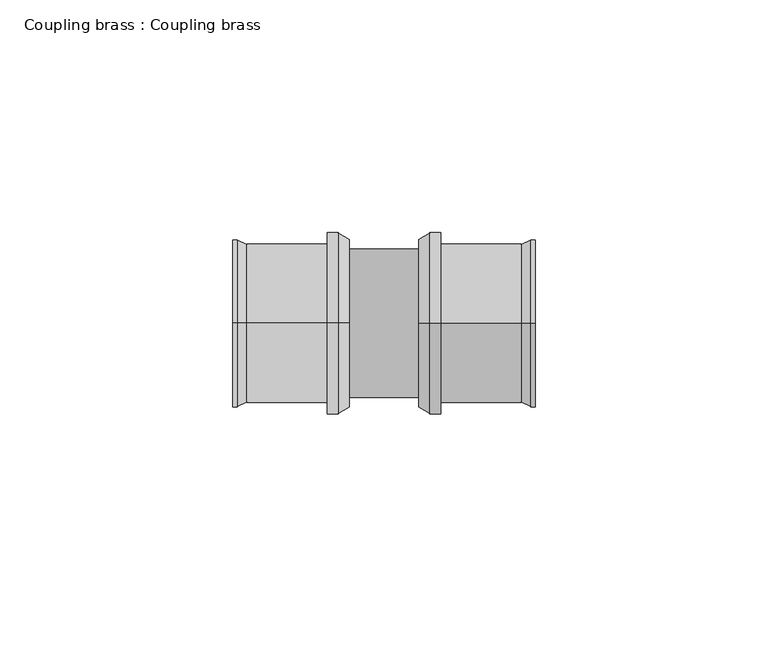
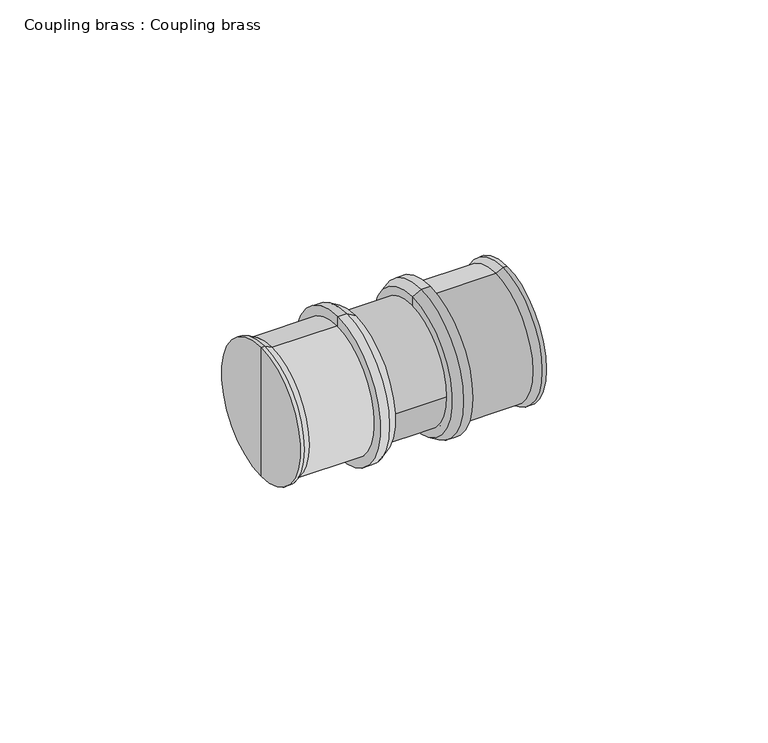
"""IFC4 building model written with IfcOpenShell, lengths in millimetres: pipe fitting geometry, Coupling brass : Coupling brass."""

from ifc_helpers import new_model, si_unit, point, frame, origin, origin_2d, place, context, project, spatial, polyline, circle_curve, trimmed, segment, composite_curve, outline, extrude, source, transform, mapped, element, save
from ifc_brep_helpers import plane_surface, cylinder_surface, revolved_surface, advanced_brep


def coupling_brass_coupling_brass_c12d3b78(model_context):
    return source(origin(), model_context, "Body", "SolidModel", [
        advanced_brep(
        [(7.5, 0.0, 0.0), (7.5, 0.0, 18.1432269), (7.5, 0.0, -18.1432269), (12.2, 0.0, -19.5), (12.2, 0.0, 19.5), (12.2, 0.0, 0.0), (9.85, 0.0, -19.5), (9.85, 0.0, 19.5)],
        [
            (0, 1),
            (1, 2, circle_curve(frame((7.5, 0.0, 0.0), z_axis=(-1.0, 0.0, 0.0), x_axis=(0.0, 0.0, 1.0)), 18.1432269)),
            (2, 0),
            (2, 1, circle_curve(frame((7.5, 0.0, 0.0), z_axis=(-1.0, 0.0, 0.0), x_axis=(0.0, 0.0, 1.0)), 18.1432269)),
            (3, 4, circle_curve(frame((12.2, 0.0, 0.0), z_axis=(1.0, 0.0, 0.0), x_axis=(0.0, 0.0, 1.0)), 19.5)),
            (4, 5),
            (5, 3),
            (4, 3, circle_curve(frame((12.2, 0.0, 0.0), z_axis=(1.0, 0.0, 0.0), x_axis=(0.0, 0.0, 1.0)), 19.5)),
            (6, 7, circle_curve(frame((9.85, 0.0, 0.0), z_axis=(1.0, 0.0, 0.0), x_axis=(0.0, 0.0, 1.0)), 19.5)),
            (7, 4),
            (3, 6),
            (7, 6, circle_curve(frame((9.85, 0.0, 0.0), z_axis=(1.0, 0.0, 0.0), x_axis=(0.0, 0.0, 1.0)), 19.5)),
            (1, 7),
            (6, 2),
        ],
        [
            plane_surface(frame((7.5, 0.0, 0.0), z_axis=(-1.0, 0.0, 0.0), x_axis=(0.0, 0.0, 1.0))),
            plane_surface(frame((12.2, 0.0, 0.0), z_axis=(1.0, 0.0, 0.0), x_axis=(0.0, 0.0, 1.0))),
            cylinder_surface(frame((8.5, 0.0, 0.0), z_axis=(-1.0, 0.0, 0.0), x_axis=(0.0, 0.0, 1.0)), 19.5),
            revolved_surface(polyline([(9.85, 0.0, 19.5), (7.5, 0.0, 18.1432269)]), (8.5, 0.0, 0.0), (-1.0, 0.0, 0.0)),
        ],
        [
            (0, [[1, 2, 3]]),
            (0, [[-3, 4, -1]]),
            (1, [[5, 6, 7]]),
            (1, [[8, -7, -6]]),
            (2, [[9, 10, -5, 11]]),
            (2, [[12, -11, -8, -10]]),
            (3, [[-2, 13, -9, 14]]),
            (3, [[-4, -14, -12, -13]]),
        ],
    ),
        advanced_brep(
        [(12.2, 0.0, -17.0), (12.2, 0.0, 17.0), (29.5, 0.0, 17.0), (29.5, 0.0, -17.0), (32.5, 0.0, -18.0), (32.5, 0.0, 18.0), (32.5, 0.0, 0.0), (12.2, 0.0, 0.0), (31.5, 0.0, -18.0), (31.5, 0.0, 18.0)],
        [
            (0, 1, circle_curve(frame((12.2, 0.0, 0.0), z_axis=(1.0, 0.0, 0.0), x_axis=(0.0, 0.0, 1.0)), 17.0)),
            (1, 2),
            (2, 3, circle_curve(frame((29.5, 0.0, 0.0), z_axis=(-1.0, 0.0, 0.0), x_axis=(0.0, 0.0, 1.0)), 17.0)),
            (3, 0),
            (1, 0, circle_curve(frame((12.2, 0.0, 0.0), z_axis=(1.0, 0.0, 0.0), x_axis=(0.0, 0.0, 1.0)), 17.0)),
            (3, 2, circle_curve(frame((29.5, 0.0, 0.0), z_axis=(-1.0, 0.0, 0.0), x_axis=(0.0, 0.0, 1.0)), 17.0)),
            (4, 5, circle_curve(frame((32.5, 0.0, 0.0), z_axis=(1.0, 0.0, 0.0), x_axis=(0.0, 0.0, 1.0)), 18.0)),
            (5, 6),
            (6, 4),
            (5, 4, circle_curve(frame((32.5, 0.0, 0.0), z_axis=(1.0, 0.0, 0.0), x_axis=(0.0, 0.0, 1.0)), 18.0)),
            (7, 1),
            (0, 7),
            (8, 9, circle_curve(frame((31.5, 0.0, 0.0), z_axis=(1.0, 0.0, 0.0), x_axis=(0.0, 0.0, 1.0)), 18.0)),
            (9, 5),
            (4, 8),
            (9, 8, circle_curve(frame((31.5, 0.0, 0.0), z_axis=(1.0, 0.0, 0.0), x_axis=(0.0, 0.0, 1.0)), 18.0)),
            (2, 9),
            (8, 3),
        ],
        [
            cylinder_surface(frame((-1903.3038476, 0.0, 0.0), z_axis=(-1.0, 0.0, 0.0), x_axis=(0.0, 0.0, 1.0)), 17.0),
            plane_surface(frame((32.5, 0.0, 0.0), z_axis=(1.0, 0.0, 0.0), x_axis=(0.0, 0.0, 1.0))),
            plane_surface(frame((12.2, 0.0, 0.0), z_axis=(-1.0, 0.0, 0.0), x_axis=(0.0, 0.0, 1.0))),
            cylinder_surface(frame((-1903.3038476, 0.0, 0.0), z_axis=(-1.0, 0.0, 0.0), x_axis=(0.0, 0.0, 1.0)), 18.0),
            revolved_surface(polyline([(31.5, 0.0, 18.0), (29.5, 0.0, 17.0)]), (-1903.3038476, 0.0, 0.0), (-1.0, 0.0, 0.0)),
        ],
        [
            (0, [[1, 2, 3, 4]]),
            (0, [[5, -4, 6, -2]]),
            (1, [[7, 8, 9]]),
            (1, [[10, -9, -8]]),
            (2, [[11, -1, 12]]),
            (2, [[-12, -5, -11]]),
            (3, [[13, 14, -7, 15]]),
            (3, [[16, -15, -10, -14]]),
            (4, [[-3, 17, -13, 18]]),
            (4, [[-6, -18, -16, -17]]),
        ],
    ),
        advanced_brep(
        [(-7.5, 0.0, 0.0), (-7.5, 0.0, 18.1432269), (-7.5, 0.0, -18.1432269), (-12.2, 0.0, -19.5), (-12.2, 0.0, 19.5), (-12.2, 0.0, 0.0), (-9.85, 0.0, -19.5), (-9.85, 0.0, 19.5)],
        [
            (0, 1),
            (1, 2, circle_curve(frame((-7.5, 0.0, 0.0), z_axis=(1.0, 0.0, 0.0), x_axis=(0.0, 0.0, 1.0)), 18.1432269)),
            (2, 0),
            (2, 1, circle_curve(frame((-7.5, 0.0, 0.0), z_axis=(1.0, 0.0, 0.0), x_axis=(0.0, 0.0, 1.0)), 18.1432269)),
            (3, 4, circle_curve(frame((-12.2, 0.0, 0.0), z_axis=(-1.0, 0.0, 0.0), x_axis=(0.0, 0.0, 1.0)), 19.5)),
            (4, 5),
            (5, 3),
            (4, 3, circle_curve(frame((-12.2, 0.0, 0.0), z_axis=(-1.0, 0.0, 0.0), x_axis=(0.0, 0.0, 1.0)), 19.5)),
            (6, 7, circle_curve(frame((-9.85, 0.0, 0.0), z_axis=(-1.0, 0.0, 0.0), x_axis=(0.0, 0.0, 1.0)), 19.5)),
            (7, 4),
            (3, 6),
            (7, 6, circle_curve(frame((-9.85, 0.0, 0.0), z_axis=(-1.0, 0.0, 0.0), x_axis=(0.0, 0.0, 1.0)), 19.5)),
            (1, 7),
            (6, 2),
        ],
        [
            plane_surface(frame((-7.5, 0.0, 0.0), z_axis=(1.0, 0.0, 0.0), x_axis=(0.0, 0.0, 1.0))),
            plane_surface(frame((-12.2, 0.0, 0.0), z_axis=(-1.0, 0.0, 0.0), x_axis=(0.0, 0.0, 1.0))),
            cylinder_surface(frame((-8.5, 0.0, 0.0), z_axis=(1.0, 0.0, 0.0), x_axis=(0.0, 0.0, 1.0)), 19.5),
            revolved_surface(polyline([(-9.85, 0.0, 19.5), (-7.5, 0.0, 18.1432269)]), (-8.5, 0.0, 0.0), (1.0, 0.0, 0.0)),
        ],
        [
            (0, [[1, 2, 3]]),
            (0, [[-3, 4, -1]]),
            (1, [[5, 6, 7]]),
            (1, [[8, -7, -6]]),
            (2, [[9, 10, -5, 11]]),
            (2, [[12, -11, -8, -10]]),
            (3, [[-2, 13, -9, 14]]),
            (3, [[-4, -14, -12, -13]]),
        ],
    ),
        advanced_brep(
        [(-12.2, 0.0, -17.0), (-12.2, 0.0, 17.0), (-29.5, 0.0, 17.0), (-29.5, 0.0, -17.0), (-32.5, 0.0, -18.0), (-32.5, 0.0, 18.0), (-32.5, 0.0, 0.0), (-12.2, 0.0, 0.0), (-31.5, 0.0, -18.0), (-31.5, 0.0, 18.0)],
        [
            (0, 1, circle_curve(frame((-12.2, 0.0, 0.0), z_axis=(-1.0, 0.0, 0.0), x_axis=(0.0, 0.0, 1.0)), 17.0)),
            (1, 2),
            (2, 3, circle_curve(frame((-29.5, 0.0, 0.0), z_axis=(1.0, 0.0, 0.0), x_axis=(0.0, 0.0, 1.0)), 17.0)),
            (3, 0),
            (1, 0, circle_curve(frame((-12.2, 0.0, 0.0), z_axis=(-1.0, 0.0, 0.0), x_axis=(0.0, 0.0, 1.0)), 17.0)),
            (3, 2, circle_curve(frame((-29.5, 0.0, 0.0), z_axis=(1.0, 0.0, 0.0), x_axis=(0.0, 0.0, 1.0)), 17.0)),
            (4, 5, circle_curve(frame((-32.5, 0.0, 0.0), z_axis=(-1.0, 0.0, 0.0), x_axis=(0.0, 0.0, 1.0)), 18.0)),
            (5, 6),
            (6, 4),
            (5, 4, circle_curve(frame((-32.5, 0.0, 0.0), z_axis=(-1.0, 0.0, 0.0), x_axis=(0.0, 0.0, 1.0)), 18.0)),
            (7, 1),
            (0, 7),
            (8, 9, circle_curve(frame((-31.5, 0.0, 0.0), z_axis=(-1.0, 0.0, 0.0), x_axis=(0.0, 0.0, 1.0)), 18.0)),
            (9, 5),
            (4, 8),
            (9, 8, circle_curve(frame((-31.5, 0.0, 0.0), z_axis=(-1.0, 0.0, 0.0), x_axis=(0.0, 0.0, 1.0)), 18.0)),
            (2, 9),
            (8, 3),
        ],
        [
            cylinder_surface(frame((1903.3038476, 0.0, 0.0), z_axis=(1.0, 0.0, 0.0), x_axis=(0.0, 0.0, 1.0)), 17.0),
            plane_surface(frame((-32.5, 0.0, 0.0), z_axis=(-1.0, 0.0, 0.0), x_axis=(0.0, 0.0, 1.0))),
            plane_surface(frame((-12.2, 0.0, 0.0), z_axis=(1.0, 0.0, 0.0), x_axis=(0.0, 0.0, 1.0))),
            cylinder_surface(frame((1903.3038476, 0.0, 0.0), z_axis=(1.0, 0.0, 0.0), x_axis=(0.0, 0.0, 1.0)), 18.0),
            revolved_surface(polyline([(-31.5, 0.0, 18.0), (-29.5, 0.0, 17.0)]), (1903.3038476, 0.0, 0.0), (1.0, 0.0, 0.0)),
        ],
        [
            (0, [[1, 2, 3, 4]]),
            (0, [[5, -4, 6, -2]]),
            (1, [[7, 8, 9]]),
            (1, [[10, -9, -8]]),
            (2, [[11, -1, 12]]),
            (2, [[-12, -5, -11]]),
            (3, [[13, 14, -7, 15]]),
            (3, [[16, -15, -10, -14]]),
            (4, [[-3, 17, -13, 18]]),
            (4, [[-6, -18, -16, -17]]),
        ],
    ),
        extrude(outline(composite_curve([segment(trimmed(circle_curve(origin_2d(), 16.0), [point((-16.0, 0.0))], [point((16.0, 0.0))], False, "CARTESIAN"), True, "CONTINUOUS"), segment(trimmed(circle_curve(origin_2d(), 16.0), [point((16.0, 0.0))], [point((-16.0, 0.0))], False, "CARTESIAN"), True, "CONTINUOUS")], self_intersect=False)), frame((-8.5, 0.0, 0.0), z_axis=(1.0, 0.0, 0.0), x_axis=(0.0, 1.0, 0.0)), (0.0, 0.0, 1.0), 17.0),
    ])


if __name__ == "__main__":
    model = new_model("IFC4")
    model_context = context("Model", 3, world=origin())
    ifc_project = project(units=[si_unit("LENGTHUNIT", "METRE", prefix="MILLI")], contexts=[model_context])
    site = spatial("IfcSite", under=ifc_project)
    building = spatial("IfcBuilding", under=site)
    placement = place(None, origin())
    coupling_brass_coupling_brass_shape = coupling_brass_coupling_brass_c12d3b78(model_context)
    element("IfcPipeFitting", 1, ObjectType="Coupling brass : Coupling brass", at=placement, inside=building, context=model_context, shape_type="MappedRepresentation", body=[
        mapped(coupling_brass_coupling_brass_shape, transform((0.0, 0.0, 0.0), x_axis=(1.0, 0.0, 0.0), y_axis=(0.0, 1.0, 0.0), z_axis=(0.0, 0.0, 1.0))),
    ])
    save(model, "model.ifc")
